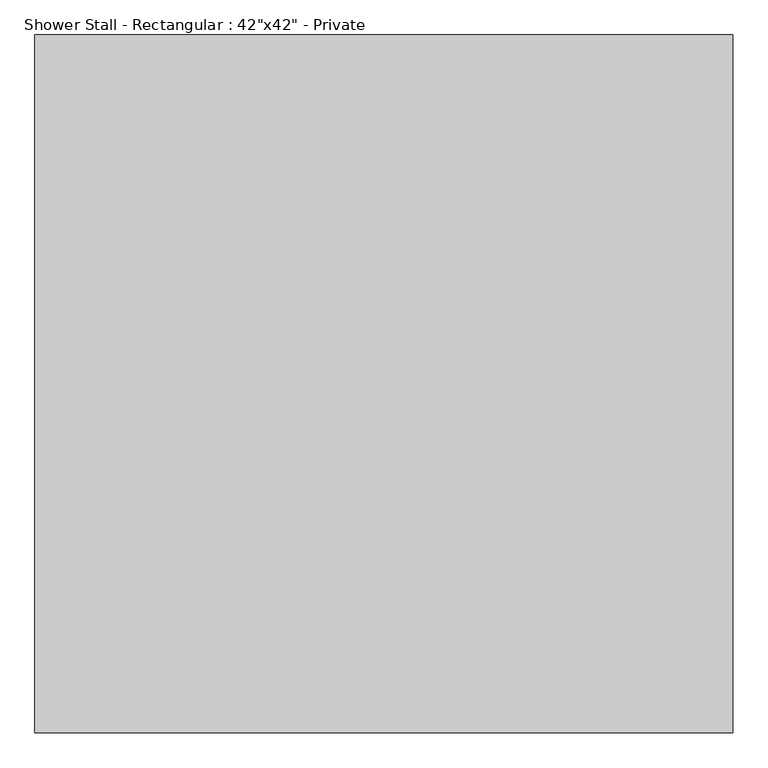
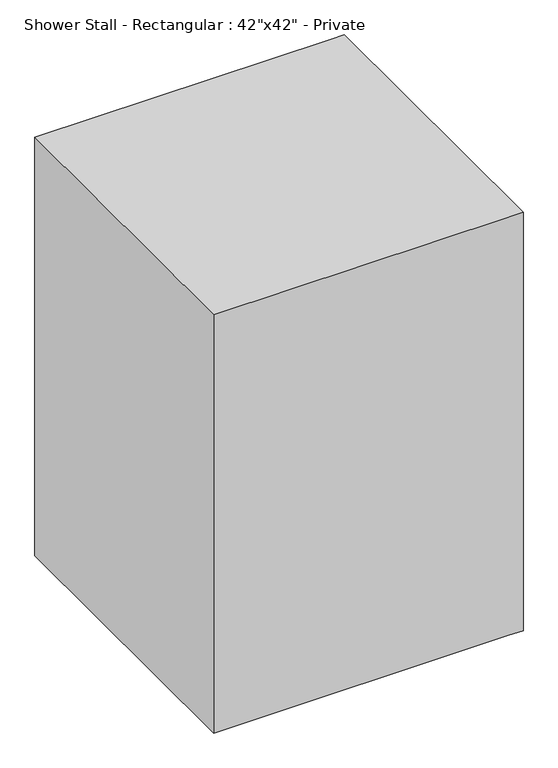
"""IFC4 building model written with IfcOpenShell, lengths in millimetres: flow terminal geometry."""

from ifc_helpers import new_model, si_unit, point, frame, frame_2d, origin, origin_with_axes, place, context, project, spatial, polyline, circle_curve, trimmed, segment, composite_curve, outline, extrude, faceted_brep, source, transform, mapped, element, save


def flow_terminal_00a5fde1(model_context):
    return source(origin(), model_context, "Body", "SolidModel", [
        extrude(outline(composite_curve([segment(trimmed(circle_curve(frame_2d((533.4, 533.4)), 31.75), [point((501.65, 533.4))], [point((565.15, 533.4))], False, "CARTESIAN"), True, "CONTINUOUS"), segment(trimmed(circle_curve(frame_2d((533.4, 533.4)), 31.75), [point((565.15, 533.4))], [point((501.65, 533.4))], False, "CARTESIAN"), True, "CONTINUOUS")], self_intersect=False)), origin_with_axes(), (0.0, 0.0, 1.0), 101.6),
        faceted_brep([(0.0, 1066.8, 1524.0), (0.0, 0.0, 1524.0), (1016.0, 0.0, 1524.0), (1066.8, 0.0, 1524.0), (1066.8, 1066.8, 1524.0), (1016.0, 1066.8, 1524.0), (0.0, 0.0, 0.0), (0.0, 1066.8, 0.0), (1016.0, 1066.8, 0.0), (1066.8, 1066.8, 0.0), (1066.8, 0.0, 0.0), (1016.0, 0.0, 0.0), (1066.8, 152.4, 1447.8), (1066.8, 914.4, 1447.8), (1066.8, 914.4, 101.6), (1066.8, 152.4, 101.6), (50.8, 1016.0, 1447.8), (50.8, 50.8, 1447.8), (50.8, 50.8, 101.6), (50.8, 1016.0, 101.6), (1016.0, 1016.0, 1447.8), (1016.0, 914.4, 1447.8), (1016.0, 152.4, 1447.8), (1016.0, 50.8, 1447.8), (1016.0, 50.8, 101.6), (1016.0, 152.4, 101.6), (1016.0, 914.4, 101.6), (1016.0, 1016.0, 101.6)], [[[0, 1, 2, 3, 4, 5]], [[6, 7, 8, 9, 10, 11]], [[4, 9, 8, 7, 0, 5]], [[1, 0, 7, 6]], [[1, 6, 11, 10, 3, 2]], [[9, 4, 3, 10], [12, 13, 14, 15]], [[16, 17, 18, 19]], [[17, 16, 20, 21, 13, 12, 22, 23]], [[18, 17, 23, 24]], [[19, 18, 24, 25, 15, 14, 26, 27]], [[16, 19, 27, 20]], [[26, 21, 20, 27]], [[14, 13, 21, 26]], [[12, 15, 25, 22]], [[22, 25, 24, 23]]]),
        extrude(outline(polyline([(1054.1, 914.4), (1054.1, 152.4), (1022.35, 152.4), (1022.35, 158.75), (1047.75, 158.75), (1047.75, 908.05), (1022.35, 908.05), (1022.35, 914.4), (1054.1, 914.4)])), frame((0.0, 0.0, 766.365625), z_axis=(0.0, 0.0, 1.0), x_axis=(1.0, 0.0, 0.0)), (0.0, 0.0, 1.0), 76.2),
        extrude(outline(polyline([(1022.35, 914.4), (1022.35, 152.4), (1016.0, 152.4), (1016.0, 914.4), (1022.35, 914.4)])), frame((0.0, 0.0, 101.6), z_axis=(0.0, 0.0, 1.0), x_axis=(1.0, 0.0, 0.0)), (0.0, 0.0, 1.0), 1346.2),
    ])


if __name__ == "__main__":
    model = new_model("IFC4")
    model_context = context("Model", 3, world=origin())
    ifc_project = project(units=[si_unit("LENGTHUNIT", "METRE", prefix="MILLI")], contexts=[model_context])
    site = spatial("IfcSite", under=ifc_project)
    building = spatial("IfcBuilding", under=site)
    placement = place(None, origin())
    flow_terminal_shape = flow_terminal_00a5fde1(model_context)
    element("IfcFlowTerminal", 1, ObjectType="Shower Stall - Rectangular : 42\"x42\" - Private", at=placement, inside=building, context=model_context, shape_type="MappedRepresentation", body=[
        mapped(flow_terminal_shape, transform((0.0, 0.0, 0.0), x_axis=(1.0, 0.0, 0.0), y_axis=(0.0, 1.0, 0.0), z_axis=(0.0, 0.0, 1.0))),
    ])
    save(model, "model.ifc")
